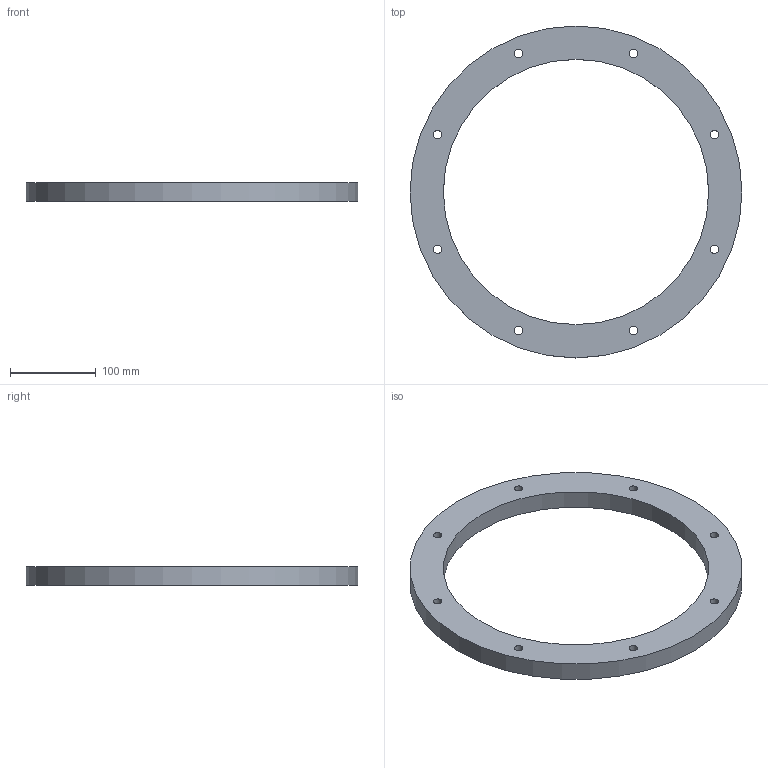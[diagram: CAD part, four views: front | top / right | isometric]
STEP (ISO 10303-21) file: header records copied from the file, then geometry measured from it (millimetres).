
FILE_DESCRIPTION(('Open CASCADE Model'),'2;1');
FILE_NAME('Open CASCADE Shape Model','2026-10-08T06:53:12',('Author'),( 'Open CASCADE'),'Open CASCADE STEP processor 7.8','Open CASCADE 7.8' ,'Unknown');
FILE_SCHEMA(('AUTOMOTIVE_DESIGN { 1 0 10303 214 1 1 1 1 }'));
Length unit declared in the file: millimetre
Products named in the file (1): Open CASCADE STEP translator 7.8 2
Bounding box: 388 x 388 x 22 mm (x, y, z)
Volume: 926901.8 mm3; surface area: 138035.3 mm2
Topology: 1 solids, 1 shells, 12 faces, 30 edges, 20 vertices
Faces by surface type: cylinder 10, plane 2
Full cylindrical faces by diameter (mm): 10 x8, 310 x1, 388 x1
Entity records: 858 total; most frequent: CARTESIAN_POINT 219, DIRECTION 120, ORIENTED_EDGE 60, PCURVE 60, DEFINITIONAL_REPRESENTATION 60, LINE 50, VECTOR 50, AXIS2_PLACEMENT_3D 33
